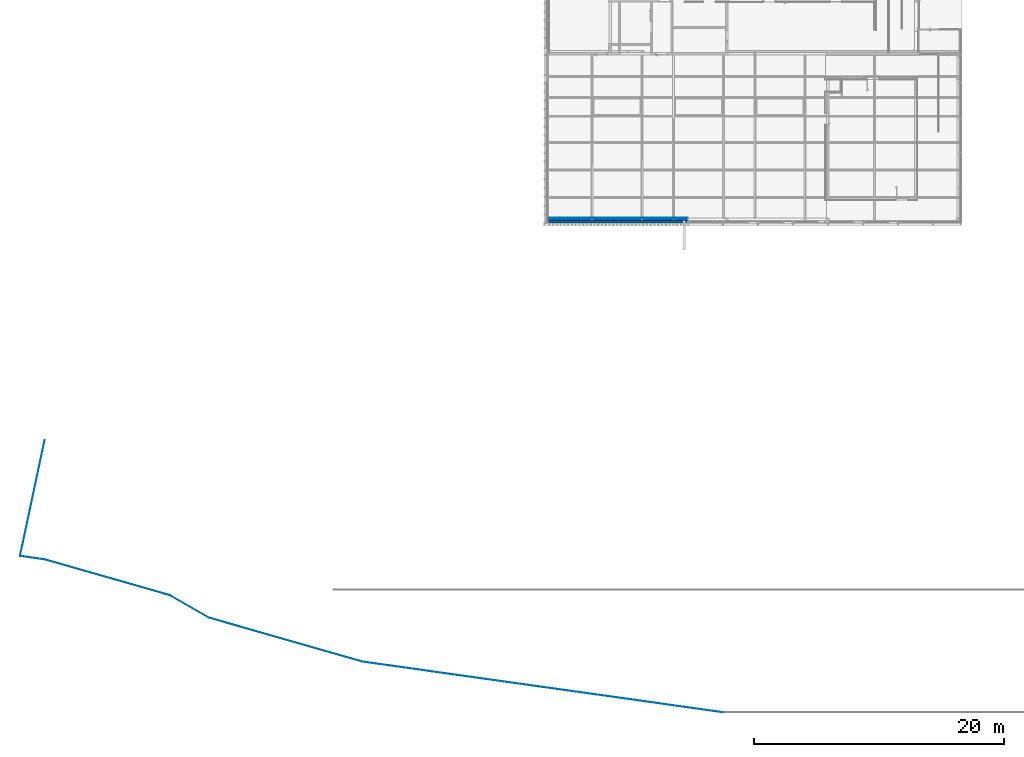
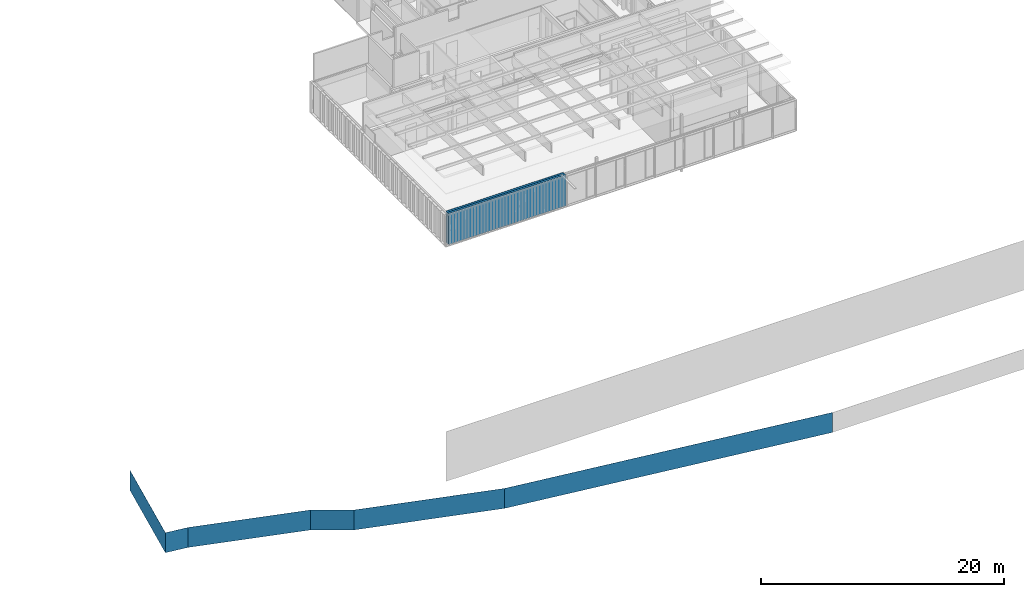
# One storey, part 79 of 240: 9 walls.
"""IFC2X3 building model written with IfcOpenShell, lengths in centimetres."""

from ifc_helpers import new_model, entity, si_unit, converted_unit, derived_unit, direction, frame, frame_2d, origin, place, context, subcontext, project, spatial, polyline, rectangle, outline, extrude, material, layer, layer_set, layer_usage, type_object, element, save


model = new_model("IFC2X3")

# Units and contexts
model_context = context("Model", 3, precision=0.001, world=origin(), true_north=direction((6.12303176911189e-17, 1.0)))
body_context = subcontext(model_context, "Body", "Model", "MODEL_VIEW")
ifc_project = project(units=[si_unit("LENGTHUNIT", "METRE", prefix="CENTI"), si_unit("AREAUNIT", "SQUARE_METRE"), si_unit("VOLUMEUNIT", "CUBIC_METRE"), converted_unit("PLANEANGLEUNIT", "DEGREE", entity("IfcRatioMeasure", 0.0174532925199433), si_unit("PLANEANGLEUNIT", "RADIAN"), dimensions=[0, 0, 0, 0, 0, 0, 0]), si_unit("MASSUNIT", "GRAM", prefix="KILO"), derived_unit("MASSDENSITYUNIT", [(si_unit("MASSUNIT", "GRAM", prefix="KILO"), 1), (si_unit("LENGTHUNIT", "METRE"), -3)]), si_unit("TIMEUNIT", "SECOND"), si_unit("FREQUENCYUNIT", "HERTZ"), si_unit("THERMODYNAMICTEMPERATUREUNIT", "DEGREE_CELSIUS"), derived_unit("THERMALTRANSMITTANCEUNIT", [(si_unit("MASSUNIT", "GRAM", prefix="KILO"), 1), (si_unit("THERMODYNAMICTEMPERATUREUNIT", "KELVIN"), -1), (si_unit("TIMEUNIT", "SECOND"), -3)]), derived_unit("VOLUMETRICFLOWRATEUNIT", [(si_unit("LENGTHUNIT", "METRE"), 3), (si_unit("TIMEUNIT", "SECOND"), -1)]), si_unit("ELECTRICCURRENTUNIT", "AMPERE"), si_unit("ELECTRICVOLTAGEUNIT", "VOLT"), si_unit("POWERUNIT", "WATT"), si_unit("FORCEUNIT", "NEWTON", prefix="KILO"), si_unit("ILLUMINANCEUNIT", "LUX"), si_unit("LUMINOUSFLUXUNIT", "LUMEN"), si_unit("LUMINOUSINTENSITYUNIT", "CANDELA"), derived_unit("USERDEFINED", [(si_unit("MASSUNIT", "GRAM", prefix="KILO"), -1), (si_unit("LENGTHUNIT", "METRE"), -2), (si_unit("TIMEUNIT", "SECOND"), 3), (si_unit("LUMINOUSFLUXUNIT", "LUMEN"), 1)]), derived_unit("LINEARVELOCITYUNIT", [(si_unit("LENGTHUNIT", "METRE"), 1), (si_unit("TIMEUNIT", "SECOND"), -1)]), si_unit("PRESSUREUNIT", "PASCAL"), derived_unit("USERDEFINED", [(si_unit("LENGTHUNIT", "METRE"), -2), (si_unit("MASSUNIT", "GRAM", prefix="KILO"), 1), (si_unit("TIMEUNIT", "SECOND"), -2)])], contexts=[model_context])

# Site, building, storey
site_placement = place(None, frame((-2781.94577612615, 7442.24238424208, 0.0)))
site = spatial("IfcSite", under=ifc_project, at=site_placement, Name="Default", CompositionType="ELEMENT")
building_placement = place(site_placement, origin())
building = spatial("IfcBuilding", under=site, at=building_placement, CompositionType="ELEMENT")
storey_placement = place(building_placement, origin())
storey = spatial("IfcBuildingStorey", under=building, at=storey_placement, Name="N00 - COO", CompositionType="ELEMENT", Elevation=0.0)

# Walls
ifc_material_1 = material(Name="Aluminium bardage")
ifc_layer_1 = layer(ifc_material_1, 0.5)
ifc_material_2 = material(Name="01 - Lame d'air")
ifc_layer_2 = layer(ifc_material_2, 1.5)
ifc_material_3 = material(Name="00 - Isolant")
ifc_layer_3 = layer(ifc_material_3, 18.0)
ifc_layer_set_1 = layer_set([ifc_layer_1, ifc_layer_2, ifc_layer_3], Name="Mur de base:04 - Parement - ITE 18cm + vide 2cm")
ifc_layer_usage_1 = layer_usage(ifc_layer_set_1, "AXIS2", "POSITIVE", -10.0)
wall_type_1 = type_object("IfcWallType", Name="Mur de base:04 - Parement - ITE 18cm + vide 2cm", PredefinedType="STANDARD", material=ifc_layer_set_1)
wall_1_placement = place(building_placement, frame((-11845.3505746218, -5556.50173441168, 0.0)))
element("IfcWallStandardCase", 1, at=wall_1_placement, inside=storey, type_object=wall_type_1, material=ifc_layer_usage_1, Name="Mur de base:04 - Parement - ITE 18cm + vide 2cm", ObjectType="Mur de base:04 - Parement - ITE 18cm + vide 2cm", context=body_context, shape_type="SweptSolid", body=[
    extrude(rectangle(XDim=1114.53382848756, YDim=20.0000000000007, at=frame_2d((557.266914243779, 7.99360577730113e-15), x_axis=(-1.0, 0.0))), origin(), (0.0, 0.0, 1.0), 313.000000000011),
])
ifc_material_4 = material(Name="01 - Maçonnerie")
ifc_layer_4 = layer(ifc_material_4, 20.0)
ifc_layer_set_2 = layer_set([ifc_layer_4], Name="Mur de base:04 - Structure - béton - 20cm")
ifc_layer_usage_2 = layer_usage(ifc_layer_set_2, "AXIS2", "NEGATIVE", 10.0)
wall_type_2 = type_object("IfcWallType", Name="Mur de base:04 - Structure - béton - 20cm", PredefinedType="STANDARD", material=ifc_layer_set_2)
wall_2_placement = place(building_placement, frame((-11845.3505746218, -5536.50173441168, 0.0)))
element("IfcWallStandardCase", 2, at=wall_2_placement, inside=storey, type_object=wall_type_2, material=ifc_layer_usage_2, Name="Mur de base:04 - Structure - béton - 20cm", ObjectType="Mur de base:04 - Structure - béton - 20cm", context=body_context, shape_type="SweptSolid", body=[
    extrude(rectangle(XDim=1112.53382848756, YDim=20.0000000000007, at=frame_2d((556.266914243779, 2.66453525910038e-15), x_axis=(-1.0, 0.0))), origin(), (0.0, 0.0, 1.0), 313.000000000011),
])
ifc_material_5 = material(Name="CP bouleau perforé")
ifc_layer_5 = layer(ifc_material_5, 2.0)
ifc_layer_set_3 = layer_set([ifc_layer_5], Name="Mur de base:06 - habillage bois collée 2cm perforé")
ifc_layer_usage_3 = layer_usage(ifc_layer_set_3, "AXIS2", "NEGATIVE", 1.0)
wall_type_3 = type_object("IfcWallType", Name="Mur de base:06 - habillage bois collée 2cm perforé", PredefinedType="STANDARD", material=ifc_layer_set_3)
wall_3_placement = place(storey_placement, frame((-11844.3505746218, -5525.50173441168, 0.0)))
element("IfcWallStandardCase", 3, at=wall_3_placement, inside=storey, type_object=wall_type_3, material=ifc_layer_usage_3, Name="Mur de base:06 - habillage bois collée 2cm perforé", ObjectType="Mur de base:06 - habillage bois collée 2cm perforé", context=body_context, shape_type="SweptSolid", body=[
    extrude(rectangle(XDim=1111.53382848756, YDim=1.99999999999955, at=frame_2d((555.766914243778, 2.62012633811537e-13), x_axis=(-1.0, 0.0))), origin(), (0.0, 0.0, 1.0), 312.999999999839),
])
ifc_material_6 = material(Name="Métal déployé grillage")
ifc_layer_6 = layer(ifc_material_6, 1.0)
ifc_layer_set_4 = layer_set([ifc_layer_6], Name="Mur de base:clôture")
ifc_layer_usage_4 = layer_usage(ifc_layer_set_4, "AXIS2", "NEGATIVE", 0.5)
wall_type_4 = type_object("IfcWallType", Name="Mur de base:clôture", PredefinedType="STANDARD", material=ifc_layer_set_4)
wall_4_placement = place(building_placement, frame((-10454.027805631, -9475.47193418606, 0.0), z_axis=(0.0, 0.0, 1.0), x_axis=(-0.99026806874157, 0.139173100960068, 0.0)))
element("IfcWallStandardCase", 4, at=wall_4_placement, inside=storey, type_object=wall_type_4, material=ifc_layer_usage_4, Name="Mur de base:clôture", ObjectType="Mur de base:clôture", context=body_context, shape_type="SweptSolid", body=[
    extrude(outline(polyline([(2910.0, -0.499999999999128), (2910.06992681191, 0.500000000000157), (0.0, 0.500000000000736), (0.0699268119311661, -0.499999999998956), (2910.0, -0.499999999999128)])), origin(), (0.0, 0.0, 1.0), 200.0),
])
ifc_layer_usage_5 = layer_usage(ifc_layer_set_4, "AXIS2", "NEGATIVE", 0.5)
wall_5_placement = place(building_placement, frame((-13335.7088998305, -9070.48298164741, 0.0), z_axis=(0.0, 0.0, 1.0), x_axis=(-0.961261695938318, 0.275637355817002, 0.0)))
element("IfcWallStandardCase", 5, at=wall_5_placement, inside=storey, type_object=wall_type_4, material=ifc_layer_usage_5, Name="Mur de base:clôture", ObjectType="Mur de base:clôture", context=body_context, shape_type="SweptSolid", body=[
    extrude(outline(polyline([(1276.38115218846, -0.500000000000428), (1276.50393674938, 0.500000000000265), (0.0, 0.49999999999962), (0.0699268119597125, -0.500000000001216), (1276.38115218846, -0.500000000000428)])), origin(), (0.0, 0.0, 1.0), 200.0),
])
ifc_layer_usage_6 = layer_usage(ifc_layer_set_4, "AXIS2", "NEGATIVE", 0.5)
wall_6_placement = place(building_placement, frame((-14562.6510576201, -8718.6784299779, 0.0), z_axis=(0.0, 0.0, 1.0), x_axis=(-0.866025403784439, 0.5, 0.0)))
element("IfcWallStandardCase", 6, at=wall_6_placement, inside=storey, type_object=wall_type_4, material=ifc_layer_usage_6, Name="Mur de base:clôture", ObjectType="Mur de base:clôture", context=body_context, shape_type="SweptSolid", body=[
    extrude(outline(polyline([(355.911090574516, -0.49999999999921), (355.788306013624, 0.499999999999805), (0.0, 0.500000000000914), (0.122784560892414, -0.499999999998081), (355.911090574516, -0.49999999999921)])), origin(), (0.0, 0.0, 1.0), 200.0),
])
ifc_layer_usage_7 = layer_usage(ifc_layer_set_4, "AXIS2", "NEGATIVE", 0.5)
wall_7_placement = place(building_placement, frame((-14870.7669222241, -8540.77050283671, 0.0), z_axis=(0.0, 0.0, 1.0), x_axis=(-0.961261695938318, 0.275637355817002, 0.0)))
element("IfcWallStandardCase", 7, at=wall_7_placement, inside=storey, type_object=wall_type_4, material=ifc_layer_usage_7, Name="Mur de base:clôture", ObjectType="Mur de base:clôture", context=body_context, shape_type="SweptSolid", body=[
    extrude(outline(polyline([(1040.09635568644, -0.500000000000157), (1040.02642887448, 0.499999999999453), (0.122784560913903, 0.499999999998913), (0.0, -0.500000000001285), (1040.09635568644, -0.500000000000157)])), origin(), (0.0, 0.0, 1.0), 200.0),
])
ifc_layer_usage_8 = layer_usage(ifc_layer_set_4, "AXIS2", "NEGATIVE", 0.5)
wall_8_placement = place(building_placement, frame((-15870.5034769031, -8254.09559674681, 0.0), z_axis=(0.0, 0.0, 1.0), x_axis=(-0.99026806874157, 0.139173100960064, 0.0)))
element("IfcWallStandardCase", 8, at=wall_8_placement, inside=storey, type_object=wall_type_4, material=ifc_layer_usage_8, Name="Mur de base:clôture", ObjectType="Mur de base:clôture", context=body_context, shape_type="SweptSolid", body=[
    extrude(outline(polyline([(200.501220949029, -0.49999999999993), (200.571147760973, 0.500000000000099), (0.069926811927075, 0.500000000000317), (0.0, -0.49999999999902), (199.498779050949, -0.499999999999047), (200.501220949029, -0.49999999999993)])), origin(), (0.0, 0.0, 1.0), 200.0),
])
ifc_layer_usage_9 = layer_usage(ifc_layer_set_4, "AXIS2", "NEGATIVE", 0.5)
wall_9_placement = place(building_placement, frame((-16068.4947734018, -8225.80004189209, 0.0), z_axis=(0.0, 0.0, 1.0), x_axis=(0.207911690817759, 0.978147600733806, 0.0)))
element("IfcWallStandardCase", 9, at=wall_9_placement, inside=storey, type_object=wall_type_4, material=ifc_layer_usage_9, Name="Mur de base:clôture", ObjectType="Mur de base:clôture", context=body_context, shape_type="SweptSolid", body=[
    extrude(outline(polyline([(944.343272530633, -0.500000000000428), (944.343272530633, 0.500000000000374), (0.0, 0.500000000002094), (0.0699268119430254, -0.499999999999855), (944.343272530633, -0.500000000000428)])), origin(), (0.0, 0.0, 1.0), 200.0),
])

save(model, "model.ifc")
